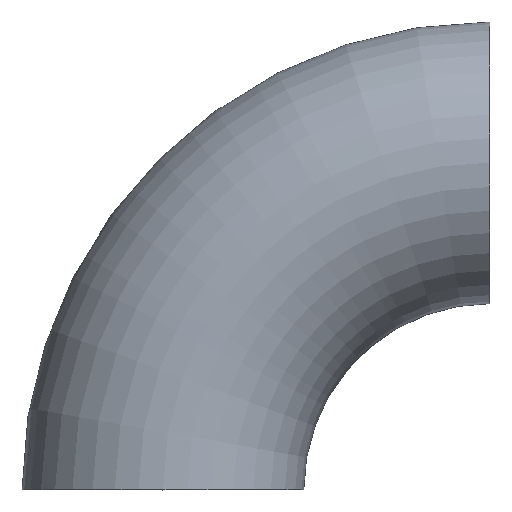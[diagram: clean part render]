
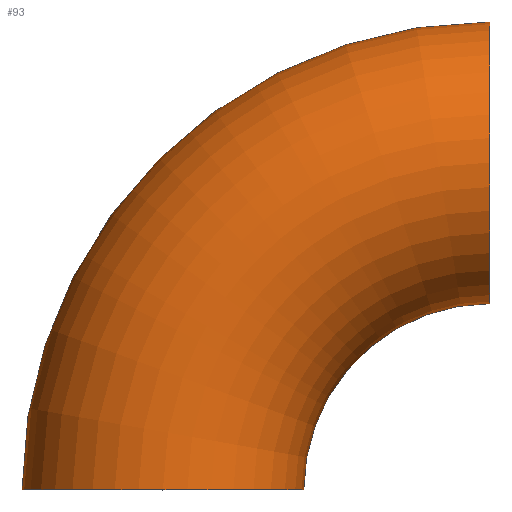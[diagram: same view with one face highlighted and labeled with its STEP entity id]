
A CAD part, top view. The second image highlights one B-rep face of the part: STEP entity #93.
In plain terms, the highlighted toroidal (fillet/blend) face has major radius 32.5 mm and minor radius 14 mm.
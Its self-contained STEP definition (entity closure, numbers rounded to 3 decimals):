
#8 = CIRCLE ( 'NONE', #140, 18.5 ) ;
#35 = CARTESIAN_POINT ( 'NONE',  ( 0., 0., 0. ) ) ;
#37 = DIRECTION ( 'NONE',  ( 1., 0., 0. ) ) ;
#44 = AXIS2_PLACEMENT_3D ( 'NONE', #35, #135, #54 ) ;
#54 = DIRECTION ( 'NONE',  ( 0., 0., 1. ) ) ;
#55 = AXIS2_PLACEMENT_3D ( 'NONE', #176, #220, #98 ) ;
#56 = FACE_OUTER_BOUND ( 'NONE', #248, .T. ) ;
#62 = DIRECTION ( 'NONE',  ( 0., 0., 1. ) ) ;
#69 = CIRCLE ( 'NONE', #143, 46.5 ) ;
#77 = DIRECTION ( 'NONE',  ( 1., 0., 0. ) ) ;
#87 = EDGE_CURVE ( 'NONE', #227, #167, #8, .T. ) ;
#92 = DIRECTION ( 'NONE',  ( 0., 0., 1. ) ) ;
#93 = ADVANCED_FACE ( 'NONE', ( #56 ), #230, .T. ) ;
#97 = CARTESIAN_POINT ( 'NONE',  ( 14., 0., 0. ) ) ;
#98 = DIRECTION ( 'NONE',  ( 0., 0., 1. ) ) ;
#104 = ORIENTED_EDGE ( 'NONE', *, *, #87, .F. ) ;
#114 = CARTESIAN_POINT ( 'NONE',  ( -14., 0., 0. ) ) ;
#123 = EDGE_CURVE ( 'NONE', #146, #167, #150, .T. ) ;
#129 = VERTEX_POINT ( 'NONE', #197 ) ;
#135 = DIRECTION ( 'NONE',  ( 0., 1., 0. ) ) ;
#140 = AXIS2_PLACEMENT_3D ( 'NONE', #171, #92, #37 ) ;
#141 = ORIENTED_EDGE ( 'NONE', *, *, #228, .T. ) ;
#143 = AXIS2_PLACEMENT_3D ( 'NONE', #221, #62, #181 ) ;
#146 = VERTEX_POINT ( 'NONE', #114 ) ;
#150 = CIRCLE ( 'NONE', #44, 14. ) ;
#167 = VERTEX_POINT ( 'NONE', #97 ) ;
#171 = CARTESIAN_POINT ( 'NONE',  ( 32.5, 0., 0. ) ) ;
#176 = CARTESIAN_POINT ( 'NONE',  ( 32.5, 32.5, 0. ) ) ;
#180 = AXIS2_PLACEMENT_3D ( 'NONE', #189, #233, #77 ) ;
#181 = DIRECTION ( 'NONE',  ( 1., 0., 0. ) ) ;
#189 = CARTESIAN_POINT ( 'NONE',  ( 32.5, 0., 0. ) ) ;
#194 = CIRCLE ( 'NONE', #55, 14. ) ;
#197 = CARTESIAN_POINT ( 'NONE',  ( 32.5, 46.5, 0. ) ) ;
#200 = CARTESIAN_POINT ( 'NONE',  ( 32.5, 18.5, 0. ) ) ;
#206 = ORIENTED_EDGE ( 'NONE', *, *, #123, .T. ) ;
#207 = EDGE_CURVE ( 'NONE', #129, #227, #194, .T. ) ;
#220 = DIRECTION ( 'NONE',  ( 1., 0., 0. ) ) ;
#221 = CARTESIAN_POINT ( 'NONE',  ( 32.5, 0., 0. ) ) ;
#227 = VERTEX_POINT ( 'NONE', #200 ) ;
#228 = EDGE_CURVE ( 'NONE', #129, #146, #69, .T. ) ;
#230 = TOROIDAL_SURFACE ( 'NONE', #180, 32.5, 14. ) ;
#233 = DIRECTION ( 'NONE',  ( 0., 0., 1. ) ) ;
#237 = ORIENTED_EDGE ( 'NONE', *, *, #207, .F. ) ;
#248 = EDGE_LOOP ( 'NONE', ( #237, #141, #206, #104 ) ) ;
